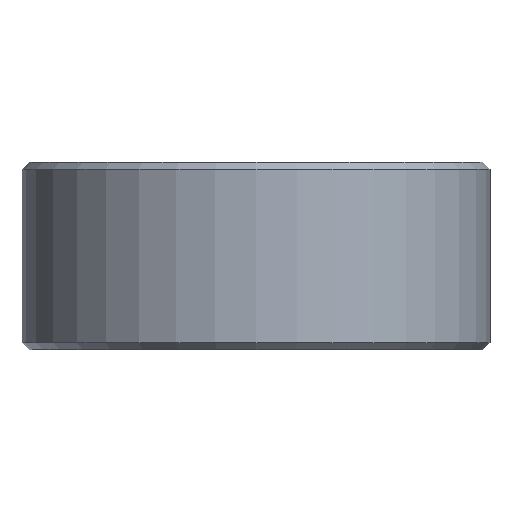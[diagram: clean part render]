
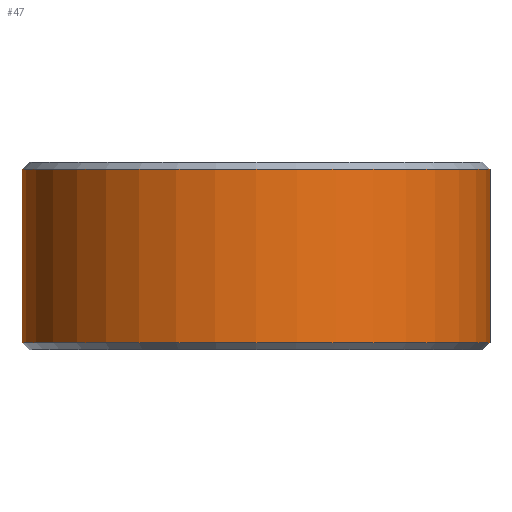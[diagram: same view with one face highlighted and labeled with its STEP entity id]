
A CAD part, front view. The second image highlights one B-rep face of the part: STEP entity #47.
In plain terms, the highlighted cylindrical face has radius 5 mm (diameter 10 mm), a full revolution.
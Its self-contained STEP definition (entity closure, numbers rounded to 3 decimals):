
#47 = ADVANCED_FACE('',(#48),#75,.T.);
#48 = FACE_BOUND('',#49,.T.);
#49 = EDGE_LOOP('',(#50,#60,#67,#68));
#50 = ORIENTED_EDGE('',*,*,#51,.T.);
#51 = EDGE_CURVE('',#52,#54,#56,.T.);
#52 = VERTEX_POINT('',#53);
#53 = CARTESIAN_POINT('',(5.,0.,0.15));
#54 = VERTEX_POINT('',#55);
#55 = CARTESIAN_POINT('',(5.,0.,3.85));
#56 = LINE('',#57,#58);
#57 = CARTESIAN_POINT('',(5.,0.,0.));
#58 = VECTOR('',#59,1.);
#59 = DIRECTION('',(0.,0.,1.));
#60 = ORIENTED_EDGE('',*,*,#61,.F.);
#61 = EDGE_CURVE('',#54,#54,#62,.T.);
#62 = CIRCLE('',#63,5.);
#63 = AXIS2_PLACEMENT_3D('',#64,#65,#66);
#64 = CARTESIAN_POINT('',(0.,0.,3.85));
#65 = DIRECTION('',(0.,0.,1.));
#66 = DIRECTION('',(1.,0.,-0.));
#67 = ORIENTED_EDGE('',*,*,#51,.F.);
#68 = ORIENTED_EDGE('',*,*,#69,.T.);
#69 = EDGE_CURVE('',#52,#52,#70,.T.);
#70 = CIRCLE('',#71,5.);
#71 = AXIS2_PLACEMENT_3D('',#72,#73,#74);
#72 = CARTESIAN_POINT('',(0.,0.,0.15));
#73 = DIRECTION('',(0.,0.,1.));
#74 = DIRECTION('',(1.,0.,-0.));
#75 = CYLINDRICAL_SURFACE('',#76,5.);
#76 = AXIS2_PLACEMENT_3D('',#77,#78,#79);
#77 = CARTESIAN_POINT('',(0.,0.,0.));
#78 = DIRECTION('',(0.,0.,1.));
#79 = DIRECTION('',(1.,0.,-0.));
